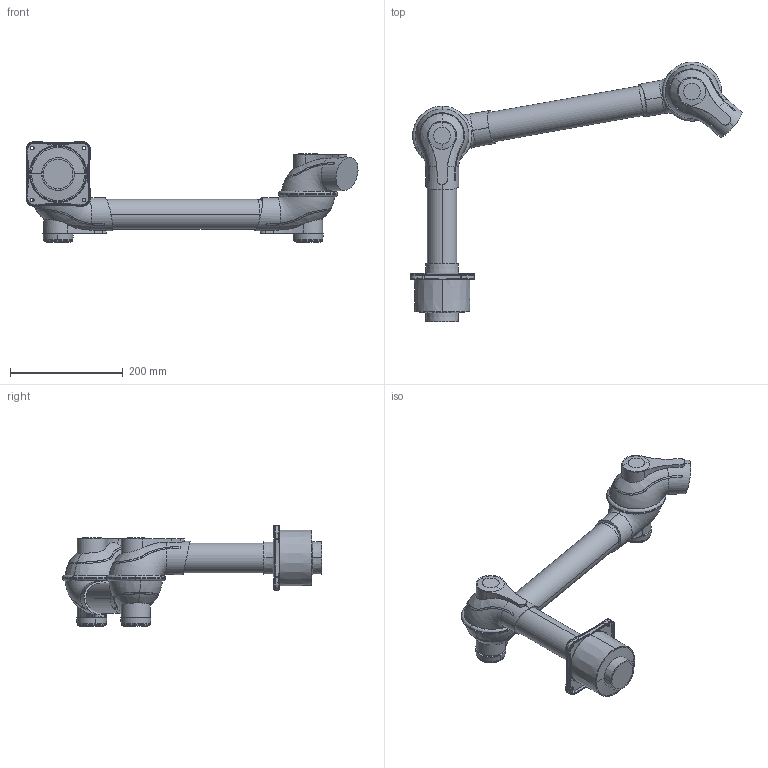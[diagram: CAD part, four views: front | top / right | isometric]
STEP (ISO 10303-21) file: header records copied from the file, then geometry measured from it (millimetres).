
FILE_DESCRIPTION((''),'2;1');
FILE_NAME('102220','2015-10-01T',('Tomas Bellgran'),(''),'PRO/ENGINEER BY PARAMETRIC TECHNOLOGY CORPORATION, 2013410','PRO/ENGINEER BY PARAMETRIC TECHNOLOGY CORPORATION, 2013410','');
FILE_SCHEMA(('AUTOMOTIVE_DESIGN { 1 0 10303 214 1 1 1 1 }'));
Length unit declared in the file: millimetre
Products named in the file (11): 100350; 102161; 102200; 102176; 9933603; 102162; 102168; 105-5481; 101156; 102177; 102220
Assembly tree (14 placements, depth 4):
  102220
    102176
      100350
      102161
      102200
    9933603
    102168
      102162
      102200
    101156
      105-5481
    102177
      102200  x2
      101156
        105-5481
Bounding box: 588.67 x 460.54 x 178.01 mm (x, y, z)
Volume: 3957002.3 mm3; surface area: 348224.1 mm2
Topology: 10 solids, 10 shells, 505 faces, 1212 edges, 738 vertices
Faces by surface type: bspline 192, plane 129, cone 100, cylinder 46, torus 24, sphere 14
Entity records: 27332 total; most frequent: CARTESIAN_POINT 13700, ORIENTED_EDGE 1504, PRESENTATION_STYLE_ASSIGNMENT 1031, STYLED_ITEM 1031, DIRECTION 1026, CURVE_STYLE 752, EDGE_CURVE 752, PROPERTY_DEFINITION 501
